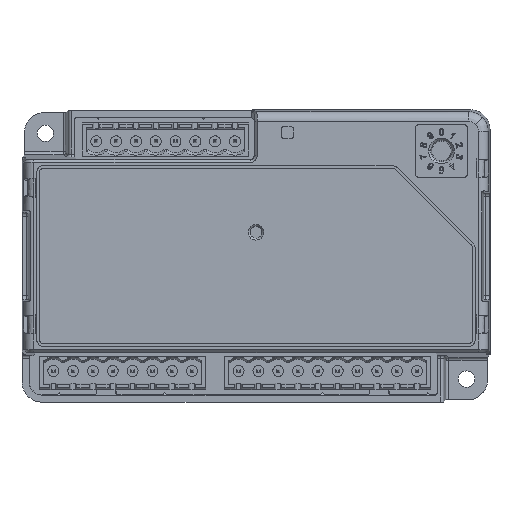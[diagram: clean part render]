
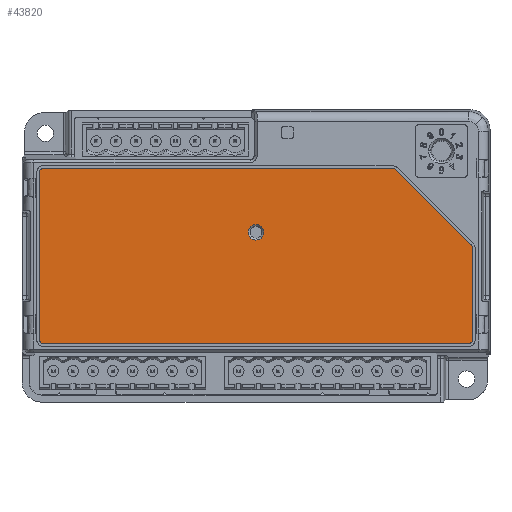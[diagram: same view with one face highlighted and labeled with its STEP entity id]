
A CAD part, top view. The second image highlights one B-rep face of the part: STEP entity #43820.
In plain terms, the highlighted planar face has unit normal (0, 0, 1).
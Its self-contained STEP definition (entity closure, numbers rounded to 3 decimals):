
#19 = CARTESIAN_POINT ( 'NONE',  ( 54.5, -22.5, 14. ) ) ;
#60 = CARTESIAN_POINT ( 'NONE',  ( 54.5, -22.5, 14. ) ) ;
#68 = VECTOR ( 'NONE', #43777, 1000. ) ;
#481 = VERTEX_POINT ( 'NONE', #8335 ) ;
#523 = EDGE_CURVE ( 'NONE', #18361, #23956, #25888, .T. ) ;
#1159 = CARTESIAN_POINT ( 'NONE',  ( 0., 6.09, 14. ) ) ;
#1198 = CARTESIAN_POINT ( 'NONE',  ( 55.086, -22.5, 14. ) ) ;
#2613 = DIRECTION ( 'NONE',  ( -0.707, 0.707, 0. ) ) ;
#2794 = AXIS2_PLACEMENT_3D ( 'NONE', #26616, #44986, #17693 ) ;
#3192 =( BOUNDED_CURVE ( )  B_SPLINE_CURVE ( 3, ( #60, #1198, #35423, #43743 ),
 .UNSPECIFIED., .F., .T. ) 
 B_SPLINE_CURVE_WITH_KNOTS ( ( 4, 4 ),
 ( 2.357, 3.927 ),
 .UNSPECIFIED. ) 
 CURVE ( )  GEOMETRIC_REPRESENTATION_ITEM ( )  RATIONAL_B_SPLINE_CURVE ( ( 1., 0.805, 0.805, 1. ) ) 
 REPRESENTATION_ITEM ( '' )  );
#3379 = CARTESIAN_POINT ( 'NONE',  ( 55.5, 1.796, 14. ) ) ;
#3574 = VECTOR ( 'NONE', #2613, 1000. ) ;
#3729 = CARTESIAN_POINT ( 'NONE',  ( -55.5, -22.086, 14. ) ) ;
#5016 = CARTESIAN_POINT ( 'NONE',  ( -55.5, 22.086, 14. ) ) ;
#6313 = DIRECTION ( 'NONE',  ( 1., 0., 0. ) ) ;
#6370 = EDGE_CURVE ( 'NONE', #43641, #46933, #38187, .T. ) ;
#7157 = CARTESIAN_POINT ( 'NONE',  ( -54.5, -22.5, 14. ) ) ;
#7750 = CARTESIAN_POINT ( 'NONE',  ( -54.5, -22.5, 14. ) ) ;
#7776 =( BOUNDED_CURVE ( )  B_SPLINE_CURVE ( 3, ( #3379, #46235, #55697, #33877 ),
 .UNSPECIFIED., .F., .F. ) 
 B_SPLINE_CURVE_WITH_KNOTS ( ( 4, 4 ),
 ( 2.749, 3.534 ),
 .UNSPECIFIED. ) 
 CURVE ( )  GEOMETRIC_REPRESENTATION_ITEM ( )  RATIONAL_B_SPLINE_CURVE ( ( 1., 0.949, 0.949, 1. ) ) 
 REPRESENTATION_ITEM ( '' )  );
#7852 = CARTESIAN_POINT ( 'NONE',  ( -54.5, 22.5, 14. ) ) ;
#8335 = CARTESIAN_POINT ( 'NONE',  ( 55.5, -21.5, 14. ) ) ;
#8393 = VECTOR ( 'NONE', #12927, 1000. ) ;
#8455 = CARTESIAN_POINT ( 'NONE',  ( 35.675, 22.325, 14. ) ) ;
#9390 = ORIENTED_EDGE ( 'NONE', *, *, #19396, .F. ) ;
#9541 = DIRECTION ( 'NONE',  ( -1., 0., 0. ) ) ;
#9799 = VERTEX_POINT ( 'NONE', #33439 ) ;
#10729 = VECTOR ( 'NONE', #9541, 1000. ) ;
#10951 = LINE ( 'NONE', #42008, #3574 ) ;
#11550 = ORIENTED_EDGE ( 'NONE', *, *, #54913, .F. ) ;
#11942 = CARTESIAN_POINT ( 'NONE',  ( 35.998, 22.002, 14. ) ) ;
#12927 = DIRECTION ( 'NONE',  ( 1., 0., 0. ) ) ;
#13091 = ORIENTED_EDGE ( 'NONE', *, *, #523, .T. ) ;
#13184 = CARTESIAN_POINT ( 'NONE',  ( -55.086, -22.5, 14. ) ) ;
#14706 = EDGE_CURVE ( 'NONE', #9799, #22090, #7776, .T. ) ;
#14988 = EDGE_CURVE ( 'NONE', #48087, #19919, #56720, .T. ) ;
#17626 = CARTESIAN_POINT ( 'NONE',  ( -55.5, 22.5, 14. ) ) ;
#17693 = DIRECTION ( 'NONE',  ( 1., 0., 0. ) ) ;
#18059 = DIRECTION ( 'NONE',  ( 0., -1., 0. ) ) ;
#18063 = ORIENTED_EDGE ( 'NONE', *, *, #6370, .T. ) ;
#18138 = VECTOR ( 'NONE', #35443, 1000. ) ;
#18361 = VERTEX_POINT ( 'NONE', #7157 ) ;
#18464 = LINE ( 'NONE', #44058, #18138 ) ;
#18960 = EDGE_CURVE ( 'NONE', #46933, #33218, #21639, .T. ) ;
#19396 = EDGE_CURVE ( 'NONE', #56047, #49414, #31878, .T. ) ;
#19919 = VERTEX_POINT ( 'NONE', #34963 ) ;
#20570 = CARTESIAN_POINT ( 'NONE',  ( 34.796, 22.5, 14. ) ) ;
#21269 = CARTESIAN_POINT ( 'NONE',  ( 35.998, 22.002, 14. ) ) ;
#21639 = LINE ( 'NONE', #30279, #10729 ) ;
#22090 = VERTEX_POINT ( 'NONE', #29234 ) ;
#22203 = EDGE_CURVE ( 'NONE', #33218, #48087, #52588, .T. ) ;
#23205 = CARTESIAN_POINT ( 'NONE',  ( -2., 6.09, 14. ) ) ;
#23956 = VERTEX_POINT ( 'NONE', #19 ) ;
#25465 = CARTESIAN_POINT ( 'NONE',  ( -54.5, 22.5, 14. ) ) ;
#25888 = LINE ( 'NONE', #43419, #8393 ) ;
#26213 = ORIENTED_EDGE ( 'NONE', *, *, #22203, .T. ) ;
#26616 = CARTESIAN_POINT ( 'NONE',  ( 0., 6.09, 14. ) ) ;
#27903 = DIRECTION ( 'NONE',  ( 0., 0., 1. ) ) ;
#28892 =( BOUNDED_CURVE ( )  B_SPLINE_CURVE ( 3, ( #47688, #3729, #13184, #7750 ),
 .UNSPECIFIED., .F., .T. ) 
 B_SPLINE_CURVE_WITH_KNOTS ( ( 4, 4 ),
 ( 2.357, 3.927 ),
 .UNSPECIFIED. ) 
 CURVE ( )  GEOMETRIC_REPRESENTATION_ITEM ( )  RATIONAL_B_SPLINE_CURVE ( ( 1., 0.805, 0.805, 1. ) ) 
 REPRESENTATION_ITEM ( '' )  );
#29234 = CARTESIAN_POINT ( 'NONE',  ( 55.002, 2.998, 14. ) ) ;
#30009 = ORIENTED_EDGE ( 'NONE', *, *, #45734, .T. ) ;
#30279 = CARTESIAN_POINT ( 'NONE',  ( -55.5, 22.5, 14. ) ) ;
#31878 = CIRCLE ( 'NONE', #47499, 2. ) ;
#33218 = VERTEX_POINT ( 'NONE', #7852 ) ;
#33248 = EDGE_CURVE ( 'NONE', #481, #9799, #18464, .T. ) ;
#33439 = CARTESIAN_POINT ( 'NONE',  ( 55.5, 1.796, 14. ) ) ;
#33877 = CARTESIAN_POINT ( 'NONE',  ( 55.002, 2.998, 14. ) ) ;
#34258 = EDGE_LOOP ( 'NONE', ( #9390, #11550 ) ) ;
#34963 = CARTESIAN_POINT ( 'NONE',  ( -55.5, -21.5, 14. ) ) ;
#35423 = CARTESIAN_POINT ( 'NONE',  ( 55.5, -22.086, 14. ) ) ;
#35443 = DIRECTION ( 'NONE',  ( 0., 1., 0. ) ) ;
#35505 = CARTESIAN_POINT ( 'NONE',  ( -55.5, 21.5, 14. ) ) ;
#35911 = DIRECTION ( 'NONE',  ( 0., 0., -1. ) ) ;
#36001 = AXIS2_PLACEMENT_3D ( 'NONE', #39918, #35911, #18059 ) ;
#36187 = PLANE ( 'NONE',  #36001 ) ;
#37648 = ORIENTED_EDGE ( 'NONE', *, *, #43655, .T. ) ;
#38187 =( BOUNDED_CURVE ( )  B_SPLINE_CURVE ( 3, ( #11942, #8455, #56752, #20570 ),
 .UNSPECIFIED., .F., .T. ) 
 B_SPLINE_CURVE_WITH_KNOTS ( ( 4, 4 ),
 ( 2.749, 3.534 ),
 .UNSPECIFIED. ) 
 CURVE ( )  GEOMETRIC_REPRESENTATION_ITEM ( )  RATIONAL_B_SPLINE_CURVE ( ( 1., 0.949, 0.949, 1. ) ) 
 REPRESENTATION_ITEM ( '' )  );
#39165 = EDGE_CURVE ( 'NONE', #22090, #43641, #10951, .T. ) ;
#39918 = CARTESIAN_POINT ( 'NONE',  ( 0., 0., 14. ) ) ;
#42008 = CARTESIAN_POINT ( 'NONE',  ( 55.5, 2.5, 14. ) ) ;
#43003 = CARTESIAN_POINT ( 'NONE',  ( -55.086, 22.5, 14. ) ) ;
#43419 = CARTESIAN_POINT ( 'NONE',  ( -55.5, -22.5, 14. ) ) ;
#43641 = VERTEX_POINT ( 'NONE', #21269 ) ;
#43655 = EDGE_CURVE ( 'NONE', #19919, #18361, #28892, .T. ) ;
#43743 = CARTESIAN_POINT ( 'NONE',  ( 55.5, -21.5, 14. ) ) ;
#43777 = DIRECTION ( 'NONE',  ( 0., -1., 0. ) ) ;
#43820 = ADVANCED_FACE ( 'NONE', ( #44227, #53126 ), #36187, .F. ) ;
#44058 = CARTESIAN_POINT ( 'NONE',  ( 55.5, -22.5, 14. ) ) ;
#44227 = FACE_OUTER_BOUND ( 'NONE', #54761, .T. ) ;
#44986 = DIRECTION ( 'NONE',  ( 0., 0., 1. ) ) ;
#45734 = EDGE_CURVE ( 'NONE', #23956, #481, #3192, .T. ) ;
#46176 = ORIENTED_EDGE ( 'NONE', *, *, #18960, .T. ) ;
#46235 = CARTESIAN_POINT ( 'NONE',  ( 55.5, 2.253, 14. ) ) ;
#46250 = ORIENTED_EDGE ( 'NONE', *, *, #33248, .T. ) ;
#46933 = VERTEX_POINT ( 'NONE', #51174 ) ;
#47499 = AXIS2_PLACEMENT_3D ( 'NONE', #1159, #27903, #6313 ) ;
#47688 = CARTESIAN_POINT ( 'NONE',  ( -55.5, -21.5, 14. ) ) ;
#48001 = ORIENTED_EDGE ( 'NONE', *, *, #14706, .T. ) ;
#48087 = VERTEX_POINT ( 'NONE', #51400 ) ;
#49414 = VERTEX_POINT ( 'NONE', #23205 ) ;
#51174 = CARTESIAN_POINT ( 'NONE',  ( 34.796, 22.5, 14. ) ) ;
#51400 = CARTESIAN_POINT ( 'NONE',  ( -55.5, 21.5, 14. ) ) ;
#52342 = CIRCLE ( 'NONE', #2794, 2. ) ;
#52588 =( BOUNDED_CURVE ( )  B_SPLINE_CURVE ( 3, ( #25465, #43003, #5016, #35505 ),
 .UNSPECIFIED., .F., .T. ) 
 B_SPLINE_CURVE_WITH_KNOTS ( ( 4, 4 ),
 ( 2.357, 3.927 ),
 .UNSPECIFIED. ) 
 CURVE ( )  GEOMETRIC_REPRESENTATION_ITEM ( )  RATIONAL_B_SPLINE_CURVE ( ( 1., 0.805, 0.805, 1. ) ) 
 REPRESENTATION_ITEM ( '' )  );
#52852 = ORIENTED_EDGE ( 'NONE', *, *, #14988, .T. ) ;
#53126 = FACE_BOUND ( 'NONE', #34258, .T. ) ;
#53527 = ORIENTED_EDGE ( 'NONE', *, *, #39165, .T. ) ;
#54708 = CARTESIAN_POINT ( 'NONE',  ( 2., 6.09, 14. ) ) ;
#54761 = EDGE_LOOP ( 'NONE', ( #46250, #48001, #53527, #18063, #46176, #26213, #52852, #37648, #13091, #30009 ) ) ;
#54913 = EDGE_CURVE ( 'NONE', #49414, #56047, #52342, .T. ) ;
#55697 = CARTESIAN_POINT ( 'NONE',  ( 55.325, 2.675, 14. ) ) ;
#56047 = VERTEX_POINT ( 'NONE', #54708 ) ;
#56720 = LINE ( 'NONE', #17626, #68 ) ;
#56752 = CARTESIAN_POINT ( 'NONE',  ( 35.253, 22.5, 14. ) ) ;
